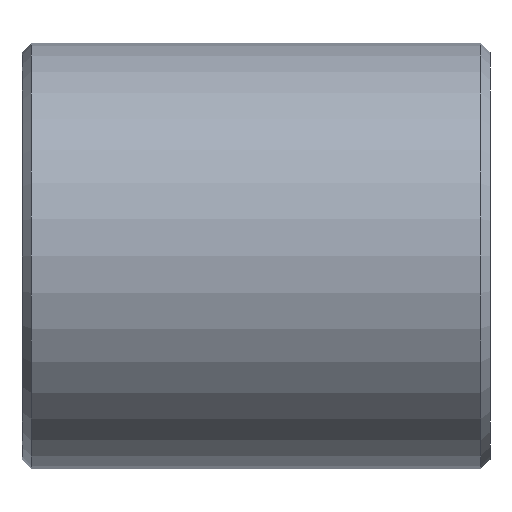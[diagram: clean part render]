
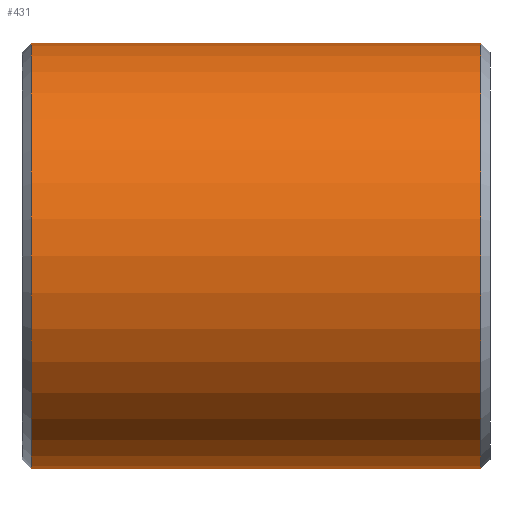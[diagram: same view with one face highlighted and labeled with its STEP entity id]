
A CAD part, left-side view. The second image highlights one B-rep face of the part: STEP entity #431.
In plain terms, the highlighted cylindrical face has radius 8.661 mm (diameter 17.323 mm), a full revolution.
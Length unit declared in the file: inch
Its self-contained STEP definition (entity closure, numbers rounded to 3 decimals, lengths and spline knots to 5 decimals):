
#19=FACE_BOUND('',#86,.T.);
#22=CYLINDRICAL_SURFACE('',#486,0.341);
#32=CIRCLE('',#484,0.341);
#33=CIRCLE('',#485,0.341);
#34=CIRCLE('',#487,0.341);
#35=CIRCLE('',#488,0.341);
#57=FACE_OUTER_BOUND('',#85,.T.);
#85=EDGE_LOOP('',(#337,#338,#339,#340,#341,#342));
#86=EDGE_LOOP('',(#343,#344,#345,#346,#347,#348));
#103=LINE('',#648,#143);
#112=LINE('',#671,#152);
#118=LINE('',#706,#158);
#143=VECTOR('',#515,0.3937);
#152=VECTOR('',#538,0.3937);
#158=VECTOR('',#580,0.341);
#180=ELLIPSE('',#460,0.39375,0.341);
#181=ELLIPSE('',#463,0.39375,0.341);
#182=ELLIPSE('',#465,0.39375,0.341);
#183=ELLIPSE('',#467,0.39375,0.341);
#184=VERTEX_POINT('',#638);
#185=VERTEX_POINT('',#639);
#188=VERTEX_POINT('',#647);
#190=VERTEX_POINT('',#653);
#192=VERTEX_POINT('',#659);
#194=VERTEX_POINT('',#665);
#204=VERTEX_POINT('',#699);
#205=VERTEX_POINT('',#701);
#206=VERTEX_POINT('',#705);
#207=VERTEX_POINT('',#707);
#223=EDGE_CURVE('',#184,#185,#180,.T.);
#227=EDGE_CURVE('',#185,#188,#103,.T.);
#230=EDGE_CURVE('',#188,#190,#181,.T.);
#233=EDGE_CURVE('',#190,#192,#182,.T.);
#236=EDGE_CURVE('',#194,#184,#183,.T.);
#239=EDGE_CURVE('',#192,#194,#112,.T.);
#253=EDGE_CURVE('',#204,#205,#32,.T.);
#254=EDGE_CURVE('',#205,#204,#33,.T.);
#255=EDGE_CURVE('',#205,#206,#118,.T.);
#256=EDGE_CURVE('',#207,#206,#34,.T.);
#257=EDGE_CURVE('',#206,#207,#35,.T.);
#337=ORIENTED_EDGE('',*,*,#253,.F.);
#338=ORIENTED_EDGE('',*,*,#254,.F.);
#339=ORIENTED_EDGE('',*,*,#255,.T.);
#340=ORIENTED_EDGE('',*,*,#256,.F.);
#341=ORIENTED_EDGE('',*,*,#257,.F.);
#342=ORIENTED_EDGE('',*,*,#255,.F.);
#343=ORIENTED_EDGE('',*,*,#233,.T.);
#344=ORIENTED_EDGE('',*,*,#239,.T.);
#345=ORIENTED_EDGE('',*,*,#236,.T.);
#346=ORIENTED_EDGE('',*,*,#223,.T.);
#347=ORIENTED_EDGE('',*,*,#227,.T.);
#348=ORIENTED_EDGE('',*,*,#230,.T.);
#431=ADVANCED_FACE('',(#57,#19),#22,.T.);
#460=AXIS2_PLACEMENT_3D('',#640,#508,#509);
#463=AXIS2_PLACEMENT_3D('',#654,#520,#521);
#465=AXIS2_PLACEMENT_3D('',#660,#526,#527);
#467=AXIS2_PLACEMENT_3D('',#666,#532,#533);
#484=AXIS2_PLACEMENT_3D('',#702,#574,#575);
#485=AXIS2_PLACEMENT_3D('',#703,#576,#577);
#486=AXIS2_PLACEMENT_3D('',#704,#578,#579);
#487=AXIS2_PLACEMENT_3D('',#708,#581,#582);
#488=AXIS2_PLACEMENT_3D('',#709,#583,#584);
#508=DIRECTION('center_axis',(0.,-0.866,0.5));
#509=DIRECTION('ref_axis',(0.,-0.5,-0.866));
#515=DIRECTION('',(0.,1.,0.));
#520=DIRECTION('center_axis',(0.,0.866,0.5));
#521=DIRECTION('ref_axis',(0.,0.5,-0.866));
#526=DIRECTION('center_axis',(0.,0.866,-0.5));
#527=DIRECTION('ref_axis',(0.,-0.5,-0.866));
#532=DIRECTION('center_axis',(0.,-0.866,-0.5));
#533=DIRECTION('ref_axis',(0.,0.5,-0.866));
#538=DIRECTION('',(0.,-1.,0.));
#574=DIRECTION('center_axis',(0.,-1.,0.));
#575=DIRECTION('ref_axis',(0.,0.,1.));
#576=DIRECTION('center_axis',(0.,-1.,0.));
#577=DIRECTION('ref_axis',(0.,0.,1.));
#578=DIRECTION('center_axis',(0.,-1.,0.));
#579=DIRECTION('ref_axis',(0.,0.,-1.));
#580=DIRECTION('',(0.,1.,0.));
#581=DIRECTION('center_axis',(0.,1.,0.));
#582=DIRECTION('ref_axis',(0.,0.,1.));
#583=DIRECTION('center_axis',(0.,1.,0.));
#584=DIRECTION('ref_axis',(0.,0.,1.));
#638=CARTESIAN_POINT('',(0.341,0.32881,0.));
#639=CARTESIAN_POINT('',(0.33865,0.35191,0.04));
#640=CARTESIAN_POINT('Origin',(0.,0.32881,0.));
#647=CARTESIAN_POINT('',(0.33865,0.39809,0.04));
#648=CARTESIAN_POINT('',(0.33865,0.375,0.04));
#653=CARTESIAN_POINT('',(0.341,0.42119,0.));
#654=CARTESIAN_POINT('Origin',(0.,0.42119,0.));
#659=CARTESIAN_POINT('',(0.33865,0.39809,-0.04));
#660=CARTESIAN_POINT('Origin',(0.,0.42119,0.));
#665=CARTESIAN_POINT('',(0.33865,0.35191,-0.04));
#666=CARTESIAN_POINT('Origin',(0.,0.32881,0.));
#671=CARTESIAN_POINT('',(0.33865,0.375,-0.04));
#699=CARTESIAN_POINT('',(0.,0.015,-0.341));
#701=CARTESIAN_POINT('',(0.,0.015,0.341));
#702=CARTESIAN_POINT('Origin',(0.,0.015,0.));
#703=CARTESIAN_POINT('Origin',(0.,0.015,0.));
#704=CARTESIAN_POINT('Origin',(0.,0.375,0.));
#705=CARTESIAN_POINT('',(0.,0.735,0.341));
#706=CARTESIAN_POINT('',(0.,0.375,0.341));
#707=CARTESIAN_POINT('',(0.,0.735,-0.341));
#708=CARTESIAN_POINT('Origin',(0.,0.735,0.));
#709=CARTESIAN_POINT('Origin',(0.,0.735,0.));
